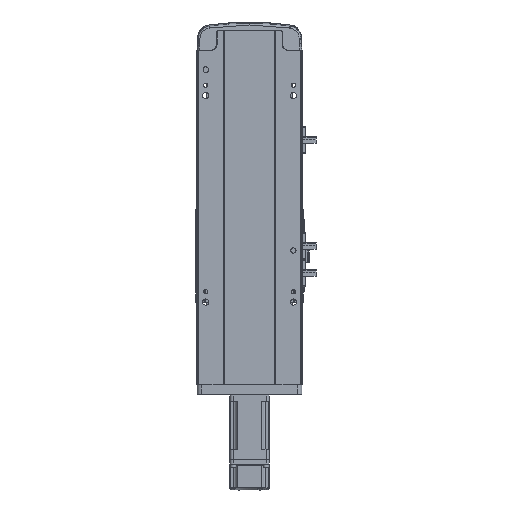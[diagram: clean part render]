
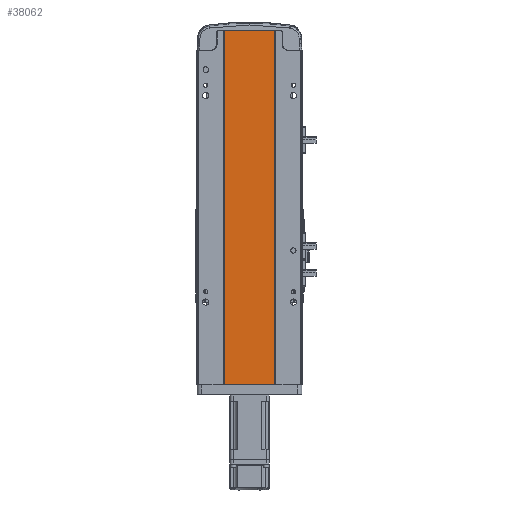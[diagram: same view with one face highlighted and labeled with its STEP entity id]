
A CAD part, front view. The second image highlights one B-rep face of the part: STEP entity #38062.
In plain terms, the highlighted planar face has unit normal (0, -1, 0).
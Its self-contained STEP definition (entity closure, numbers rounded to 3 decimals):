
#561 = DIRECTION ( 'NONE',  ( 1., 0., 0. ) ) ;
#978 = CARTESIAN_POINT ( 'NONE',  ( 0., 2., 343. ) ) ;
#5151 = DIRECTION ( 'NONE',  ( 0., 1., 0. ) ) ;
#5990 = LINE ( 'NONE', #24378, #51078 ) ;
#6386 = ORIENTED_EDGE ( 'NONE', *, *, #52614, .T. ) ;
#7540 = EDGE_CURVE ( 'NONE', #32299, #54360, #5990, .T. ) ;
#8072 = VECTOR ( 'NONE', #53478, 1000. ) ;
#8082 = VERTEX_POINT ( 'NONE', #28284 ) ;
#10862 = VERTEX_POINT ( 'NONE', #44394 ) ;
#16713 = AXIS2_PLACEMENT_3D ( 'NONE', #978, #5151, #27537 ) ;
#17203 = CARTESIAN_POINT ( 'NONE',  ( 24.5, 2., 0. ) ) ;
#17251 = CARTESIAN_POINT ( 'NONE',  ( 0., 2., 0. ) ) ;
#19135 = EDGE_LOOP ( 'NONE', ( #28718, #44879, #38534, #6386 ) ) ;
#21613 = VECTOR ( 'NONE', #35778, 1000. ) ;
#24378 = CARTESIAN_POINT ( 'NONE',  ( 24.5, 2., 343. ) ) ;
#27537 = DIRECTION ( 'NONE',  ( 0., 0., 1. ) ) ;
#28284 = CARTESIAN_POINT ( 'NONE',  ( -24.5, 2., 343. ) ) ;
#28718 = ORIENTED_EDGE ( 'NONE', *, *, #55681, .T. ) ;
#30410 = EDGE_CURVE ( 'NONE', #8082, #32299, #35234, .T. ) ;
#32299 = VERTEX_POINT ( 'NONE', #33030 ) ;
#33030 = CARTESIAN_POINT ( 'NONE',  ( 24.5, 2., 343. ) ) ;
#35234 = LINE ( 'NONE', #52855, #40679 ) ;
#35778 = DIRECTION ( 'NONE',  ( 1., 0., 0. ) ) ;
#38062 = ADVANCED_FACE ( 'NONE', ( #53381 ), #48523, .F. ) ;
#38534 = ORIENTED_EDGE ( 'NONE', *, *, #30410, .F. ) ;
#40679 = VECTOR ( 'NONE', #561, 1000. ) ;
#42304 = LINE ( 'NONE', #52936, #8072 ) ;
#44394 = CARTESIAN_POINT ( 'NONE',  ( -24.5, 2., 0. ) ) ;
#44879 = ORIENTED_EDGE ( 'NONE', *, *, #7540, .F. ) ;
#48523 = PLANE ( 'NONE',  #16713 ) ;
#48941 = LINE ( 'NONE', #17251, #21613 ) ;
#51078 = VECTOR ( 'NONE', #54555, 1000. ) ;
#52614 = EDGE_CURVE ( 'NONE', #8082, #10862, #42304, .T. ) ;
#52855 = CARTESIAN_POINT ( 'NONE',  ( -24.5, 2., 343. ) ) ;
#52936 = CARTESIAN_POINT ( 'NONE',  ( -24.5, 2., 343. ) ) ;
#53381 = FACE_OUTER_BOUND ( 'NONE', #19135, .T. ) ;
#53478 = DIRECTION ( 'NONE',  ( 0., 0., -1. ) ) ;
#54360 = VERTEX_POINT ( 'NONE', #17203 ) ;
#54555 = DIRECTION ( 'NONE',  ( 0., 0., -1. ) ) ;
#55681 = EDGE_CURVE ( 'NONE', #10862, #54360, #48941, .T. ) ;
